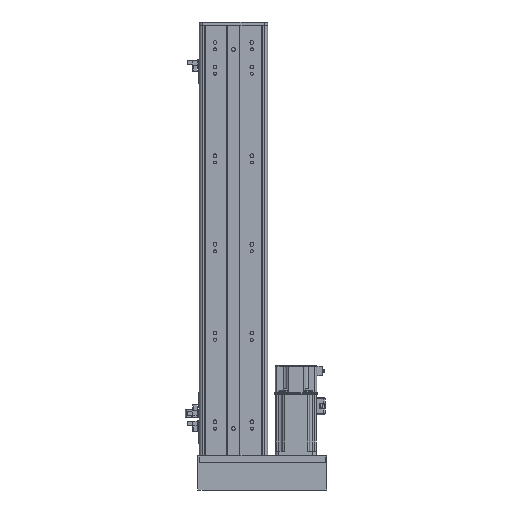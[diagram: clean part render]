
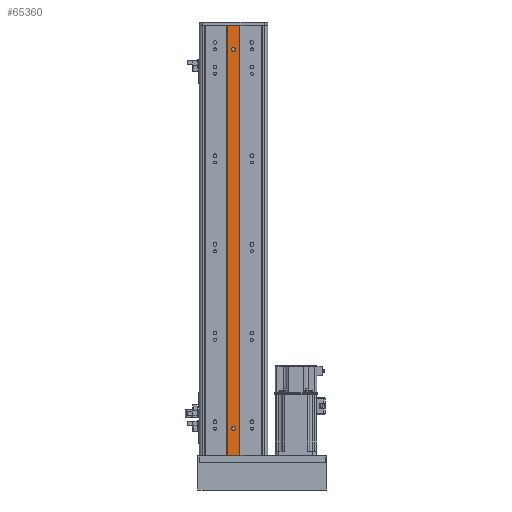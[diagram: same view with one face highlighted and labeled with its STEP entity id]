
A CAD part, front view. The second image highlights one B-rep face of the part: STEP entity #65360.
In plain terms, the highlighted planar face has unit normal (0, -1, 0).
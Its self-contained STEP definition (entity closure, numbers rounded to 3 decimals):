
#156 = AXIS2_PLACEMENT_3D ( 'NONE', #57018, #35765, #8696 ) ;
#1870 = CARTESIAN_POINT ( 'NONE',  ( 2.5, 1.309, 725.5 ) ) ;
#2962 = DIRECTION ( 'NONE',  ( 0., 0., 1. ) ) ;
#5071 = CARTESIAN_POINT ( 'NONE',  ( 2.5, 1.309, 726.5 ) ) ;
#7175 = VECTOR ( 'NONE', #9392, 1000. ) ;
#8564 = VERTEX_POINT ( 'NONE', #33254 ) ;
#8696 = DIRECTION ( 'NONE',  ( 0., 0., 1. ) ) ;
#9258 = ORIENTED_EDGE ( 'NONE', *, *, #58227, .F. ) ;
#9392 = DIRECTION ( 'NONE',  ( -1., 0., 0. ) ) ;
#10212 = VERTEX_POINT ( 'NONE', #52982 ) ;
#11544 = DIRECTION ( 'NONE',  ( 1., 0., 0. ) ) ;
#12306 = DIRECTION ( 'NONE',  ( 0., 0., 1. ) ) ;
#12677 = DIRECTION ( 'NONE',  ( 0., 0., 1. ) ) ;
#13061 = VERTEX_POINT ( 'NONE', #46804 ) ;
#13604 = LINE ( 'NONE', #24027, #62890 ) ;
#16702 = CARTESIAN_POINT ( 'NONE',  ( -2.5, 1.309, 725.5 ) ) ;
#17357 = DIRECTION ( 'NONE',  ( 0., 1., 0. ) ) ;
#17737 = LINE ( 'NONE', #37936, #51952 ) ;
#18030 = CARTESIAN_POINT ( 'NONE',  ( -2.5, 1.309, 726.5 ) ) ;
#18056 = LINE ( 'NONE', #57029, #7175 ) ;
#21154 = FACE_OUTER_BOUND ( 'NONE', #56680, .T. ) ;
#21335 = AXIS2_PLACEMENT_3D ( 'NONE', #27510, #64866, #12306 ) ;
#21930 = CIRCLE ( 'NONE', #156, 2.5 ) ;
#22805 = FACE_BOUND ( 'NONE', #58922, .T. ) ;
#24027 = CARTESIAN_POINT ( 'NONE',  ( -9., 1.309, 761. ) ) ;
#25478 = EDGE_CURVE ( 'NONE', #59354, #13061, #39660, .T. ) ;
#27291 = ORIENTED_EDGE ( 'NONE', *, *, #25478, .F. ) ;
#27483 = CARTESIAN_POINT ( 'NONE',  ( 2.5, 1.309, 170. ) ) ;
#27510 = CARTESIAN_POINT ( 'NONE',  ( 0., 1.309, 726.5 ) ) ;
#28336 = ORIENTED_EDGE ( 'NONE', *, *, #34721, .T. ) ;
#29077 = DIRECTION ( 'NONE',  ( 0., 1., 0. ) ) ;
#30694 = CIRCLE ( 'NONE', #46805, 2.5 ) ;
#32254 = DIRECTION ( 'NONE',  ( 0., 0., -1. ) ) ;
#32415 = AXIS2_PLACEMENT_3D ( 'NONE', #44728, #61535, #2962 ) ;
#33022 = EDGE_LOOP ( 'NONE', ( #49683, #54641 ) ) ;
#33254 = CARTESIAN_POINT ( 'NONE',  ( -2.5, 1.309, 170. ) ) ;
#33398 = VERTEX_POINT ( 'NONE', #16702 ) ;
#33873 = ORIENTED_EDGE ( 'NONE', *, *, #53245, .T. ) ;
#34093 = AXIS2_PLACEMENT_3D ( 'NONE', #34443, #29077, #39131 ) ;
#34443 = CARTESIAN_POINT ( 'NONE',  ( 0., 1.309, 725.5 ) ) ;
#34563 = VERTEX_POINT ( 'NONE', #27483 ) ;
#34686 = PLANE ( 'NONE',  #32415 ) ;
#34721 = EDGE_CURVE ( 'NONE', #67914, #33398, #64116, .T. ) ;
#35765 = DIRECTION ( 'NONE',  ( 0., 1., 0. ) ) ;
#37936 = CARTESIAN_POINT ( 'NONE',  ( -2.5, 1.309, 761. ) ) ;
#37958 = CARTESIAN_POINT ( 'NONE',  ( -9., 1.309, 761. ) ) ;
#38086 = CARTESIAN_POINT ( 'NONE',  ( 2.5, 1.309, 761. ) ) ;
#39131 = DIRECTION ( 'NONE',  ( 0., 0., 1. ) ) ;
#39434 = EDGE_CURVE ( 'NONE', #59565, #44790, #49678, .T. ) ;
#39660 = LINE ( 'NONE', #67001, #51363 ) ;
#40171 = DIRECTION ( 'NONE',  ( 0., 0., -1. ) ) ;
#40313 = ORIENTED_EDGE ( 'NONE', *, *, #41055, .T. ) ;
#40647 = VECTOR ( 'NONE', #11544, 1000. ) ;
#41055 = EDGE_CURVE ( 'NONE', #33398, #59565, #17737, .T. ) ;
#41714 = EDGE_CURVE ( 'NONE', #10212, #52509, #13604, .T. ) ;
#42839 = VECTOR ( 'NONE', #32254, 1000. ) ;
#43894 = ORIENTED_EDGE ( 'NONE', *, *, #58531, .F. ) ;
#44728 = CARTESIAN_POINT ( 'NONE',  ( 0., 1.309, 761. ) ) ;
#44790 = VERTEX_POINT ( 'NONE', #5071 ) ;
#46804 = CARTESIAN_POINT ( 'NONE',  ( 9., 1.309, 130. ) ) ;
#46805 = AXIS2_PLACEMENT_3D ( 'NONE', #65896, #17357, #12677 ) ;
#47740 = DIRECTION ( 'NONE',  ( 0., 0., 1. ) ) ;
#48282 = EDGE_CURVE ( 'NONE', #34563, #8564, #30694, .T. ) ;
#49678 = CIRCLE ( 'NONE', #21335, 2.5 ) ;
#49683 = ORIENTED_EDGE ( 'NONE', *, *, #48282, .T. ) ;
#49791 = LINE ( 'NONE', #37958, #40647 ) ;
#50637 = DIRECTION ( 'NONE',  ( 0., 0., -1. ) ) ;
#51363 = VECTOR ( 'NONE', #50637, 1000. ) ;
#51952 = VECTOR ( 'NONE', #47740, 1000. ) ;
#51988 = LINE ( 'NONE', #38086, #42839 ) ;
#52509 = VERTEX_POINT ( 'NONE', #62013 ) ;
#52982 = CARTESIAN_POINT ( 'NONE',  ( -9., 1.309, 761. ) ) ;
#53014 = EDGE_CURVE ( 'NONE', #8564, #34563, #21930, .T. ) ;
#53245 = EDGE_CURVE ( 'NONE', #44790, #67914, #51988, .T. ) ;
#54641 = ORIENTED_EDGE ( 'NONE', *, *, #53014, .T. ) ;
#56680 = EDGE_LOOP ( 'NONE', ( #43894, #27291, #9258, #68515 ) ) ;
#57018 = CARTESIAN_POINT ( 'NONE',  ( 0., 1.309, 170. ) ) ;
#57029 = CARTESIAN_POINT ( 'NONE',  ( 0., 1.309, 130. ) ) ;
#58227 = EDGE_CURVE ( 'NONE', #10212, #59354, #49791, .T. ) ;
#58531 = EDGE_CURVE ( 'NONE', #13061, #52509, #18056, .T. ) ;
#58922 = EDGE_LOOP ( 'NONE', ( #40313, #59137, #33873, #28336 ) ) ;
#59137 = ORIENTED_EDGE ( 'NONE', *, *, #39434, .T. ) ;
#59345 = CARTESIAN_POINT ( 'NONE',  ( 9., 1.309, 761. ) ) ;
#59354 = VERTEX_POINT ( 'NONE', #59345 ) ;
#59565 = VERTEX_POINT ( 'NONE', #18030 ) ;
#61535 = DIRECTION ( 'NONE',  ( 0., 1., 0. ) ) ;
#62013 = CARTESIAN_POINT ( 'NONE',  ( -9., 1.309, 130. ) ) ;
#62890 = VECTOR ( 'NONE', #40171, 1000. ) ;
#64116 = CIRCLE ( 'NONE', #34093, 2.5 ) ;
#64866 = DIRECTION ( 'NONE',  ( 0., 1., 0. ) ) ;
#65360 = ADVANCED_FACE ( 'NONE', ( #22805, #67117, #21154 ), #34686, .F. ) ;
#65896 = CARTESIAN_POINT ( 'NONE',  ( 0., 1.309, 170. ) ) ;
#67001 = CARTESIAN_POINT ( 'NONE',  ( 9., 1.309, 761. ) ) ;
#67117 = FACE_BOUND ( 'NONE', #33022, .T. ) ;
#67914 = VERTEX_POINT ( 'NONE', #1870 ) ;
#68515 = ORIENTED_EDGE ( 'NONE', *, *, #41714, .T. ) ;
